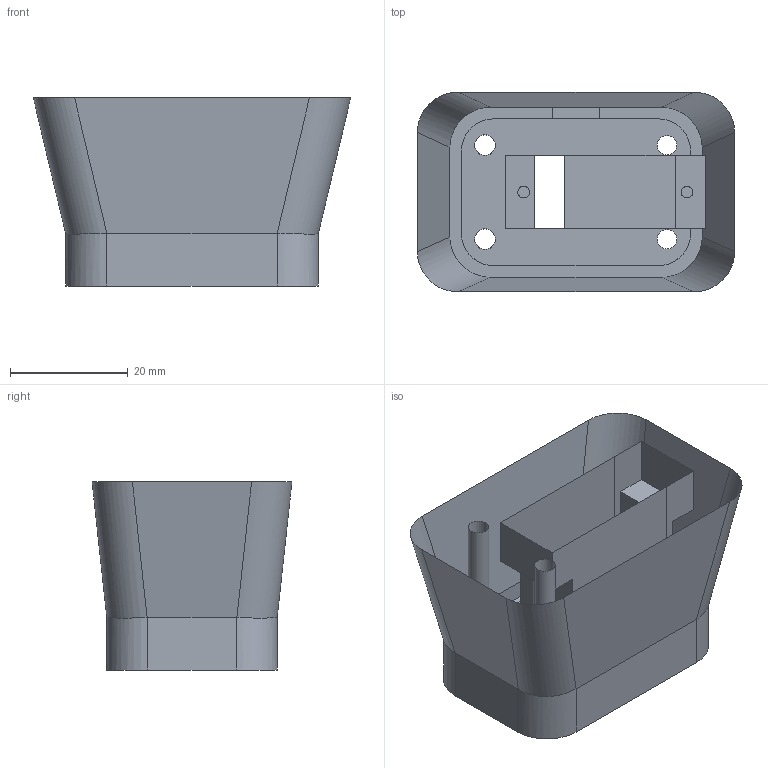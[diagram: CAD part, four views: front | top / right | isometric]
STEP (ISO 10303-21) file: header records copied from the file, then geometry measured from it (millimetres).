
FILE_DESCRIPTION(/* description */ ('STEP AP242 Edition 2','CAx-IF Rec.Pracs.---Representation and Presentation of Product Manufacturing Information (PMI)---4.0---2014-10-13','CAx-IF Rec.Pracs.---3D Tessellated Geometry---0.4---2014-09-14','2;1','CAx-IF Rec.Pracs.---User Defined Attributes---1.5---2016-08-15'),/* implementation_level */ '2;1');
FILE_NAME(/* name */ 'fe7c9d37-b8c7-411b-a701-f6101eccbb2b',/* time_stamp */ '2026-09-28T10:11:11Z',/* author */ (''),/* organization */ (''),/* preprocessor_version */ 'ST-DEVELOPER v20',/* originating_system */ 'ONSHAPE BY PTC INC, 1.221',/* authorisation */ ' ');
FILE_SCHEMA (('AP242_MANAGED_MODEL_BASED_3D_ENGINEERING_MIM_LF { 1 0 10303 442 3 1 4 }'));
Length unit declared in the file: metre
Products named in the file (1): gripper_base_plate v1:1__Körper1
Bounding box: 54 x 34 x 32 mm (x, y, z)
Surface area: 9501.4 mm2 (no closed solid volume)
Topology: 0 solids, 1 shells, 47 faces, 136 edges, 90 vertices
Faces by surface type: plane 31, cylinder 16
Full cylindrical faces by diameter (mm): 2 x2, 3.5 x2
Entity records: 1578 total; most frequent: CARTESIAN_POINT 348, ORIENTED_EDGE 242, DIRECTION 234, EDGE_CURVE 132, LINE 94, VECTOR 94, VERTEX_POINT 90, AXIS2_PLACEMENT_3D 70
